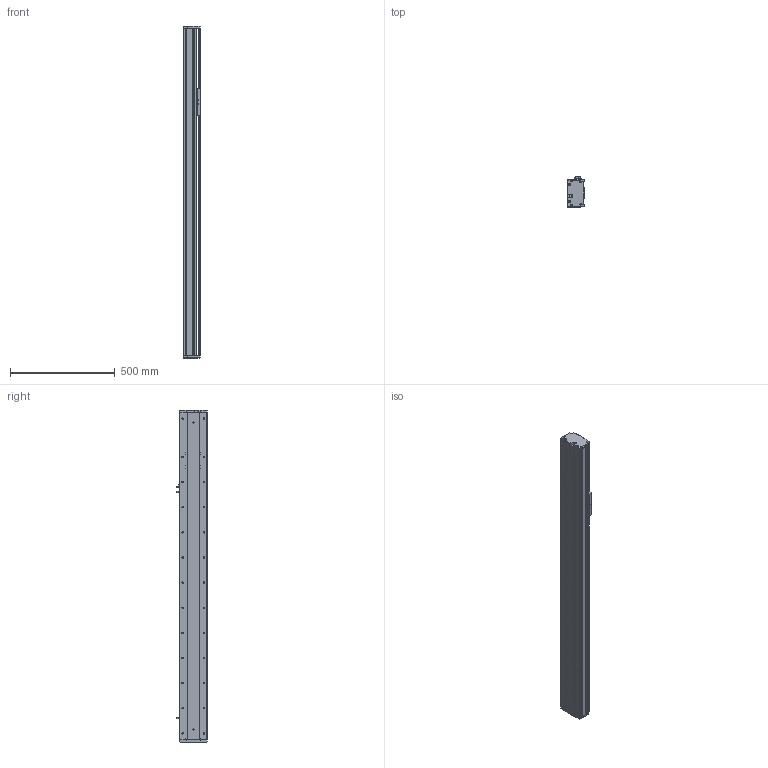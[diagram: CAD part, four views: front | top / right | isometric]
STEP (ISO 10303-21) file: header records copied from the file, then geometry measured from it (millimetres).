
FILE_DESCRIPTION (( 'STEP AP214' ), '1' );
FILE_NAME ('KSD130S-P2010-S1100-M-CM.STEP', '2019-09-10T07:18:50', ( '微软用户' ), ( '微软中国' ), 'SwSTEP 2.0', 'SolidWorks 2014', '' );
FILE_SCHEMA (( 'AUTOMOTIVE_DESIGN' ));
Length unit declared in the file: millimetre
Products named in the file (8): 130宽端盖半封闭-内装; 130宽底板半封闭丝杠内装-1100行程; KSD130S-P2010-S1100-M-CM; 130宽马达安装板半封闭-内装; U倰嫖萇EEㄜSX672; 覜茼え100遵圉猾敕; 130宽盖板半封闭丝杠内装-1100行程; 130宽滚珠丝杆安装板半封闭-内装-20丝杆
Assembly tree (9 placements, depth 2):
  KSD130S-P2010-S1100-M-CM
    130宽底板半封闭丝杠内装-1100行程
    130宽端盖半封闭-内装
    130宽滚珠丝杆安装板半封闭-内装-20丝杆
    130宽盖板半封闭丝杠内装-1100行程
    覜茼え100遵圉猾敕
    U倰嫖萇EEㄜSX672  x3
    130宽马达安装板半封闭-内装
Bounding box: 80 x 143.7 x 1585 mm (x, y, z)
Volume: 4629526.9 mm3; surface area: 1423766.5 mm2
Topology: 9 solids, 9 shells, 1203 faces, 3544 edges, 2238 vertices
Faces by surface type: cylinder 558, plane 463, cone 182
Entity records: 40214 total; most frequent: CARTESIAN_POINT 7983, DIRECTION 5814, ORIENTED_EDGE 5720, EDGE_CURVE 2860, AXIS2_PLACEMENT_3D 2133, VERTEX_POINT 1862, VECTOR 1548, LINE 1548
